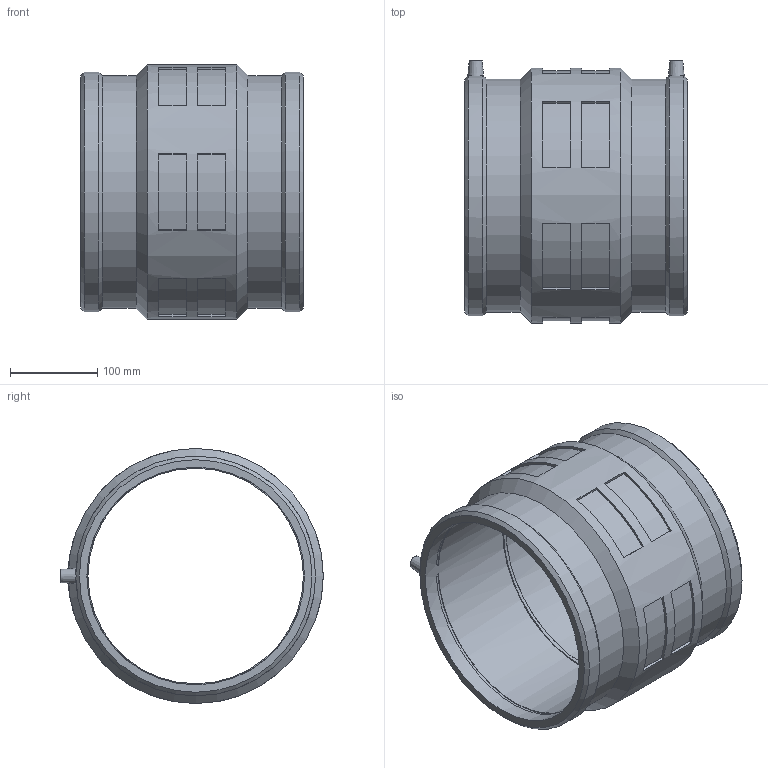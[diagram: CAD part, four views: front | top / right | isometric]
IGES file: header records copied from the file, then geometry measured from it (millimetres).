
Global section: file name: 460104250.ipt; native system: Autodesk Inventor 2015; preprocessor: unknown; author: KIM; date: 20171106.093421; units: millimetre
Bounding box: 256 x 301.5 x 293 mm (x, y, z)
Volume: 3148869.2 mm3; surface area: 469415.9 mm2
Topology: 1 solids, 1 shells, 98 faces, 240 edges, 160 vertices
Faces by surface type: plane 60, cylinder 19, cone 12, revolution 7
Full cylindrical faces by diameter (mm): 4 x2, 267.157 x2, 293 x1
